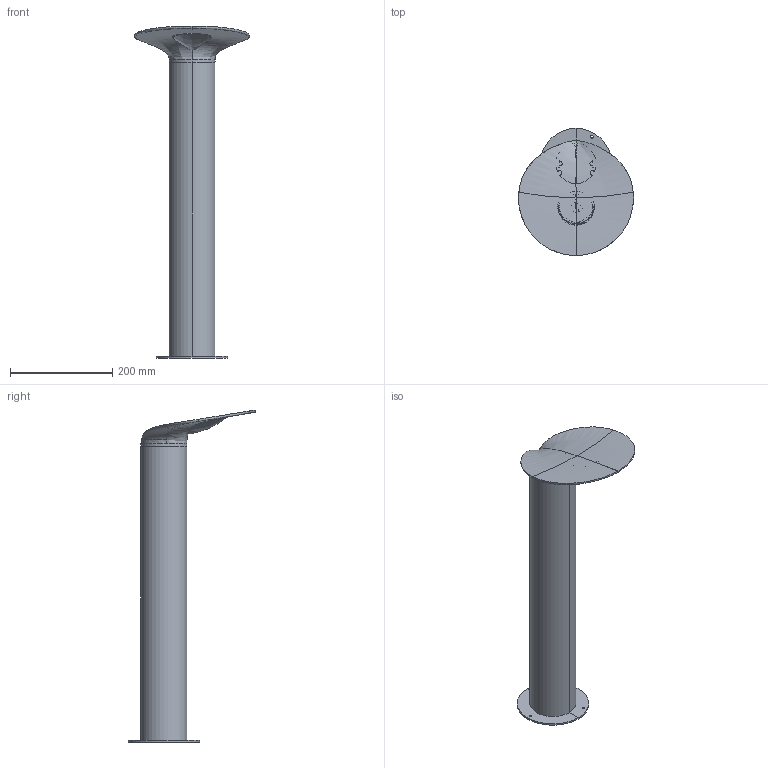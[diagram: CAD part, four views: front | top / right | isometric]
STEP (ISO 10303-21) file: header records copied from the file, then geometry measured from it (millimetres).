
FILE_DESCRIPTION(/* description */ (''),/* implementation_level */ '2;1');
FILE_NAME(/* name */ 'C:\Users\FrancoSartori\Documents\FARO\01_En Proceso\0_LOTUS\03_Publicación\71225.stp',/* time_stamp */ '2021-06-03T09:50:05+02:00',/* author */ ('FrancoSartori'),/* organization */ (''),/* preprocessor_version */ 'ST-DEVELOPER v18.1',/* originating_system */ 'AutoCAD Mechanical',/* authorisation */ '');
FILE_SCHEMA (('AUTOMOTIVE_DESIGN { 1 0 10303 214 3 1 1 }'));
Length unit declared in the file: millimetre
Products named in the file (4): Product; 71225_ - LAMP-468748-Export; 71225_ - lotusTop_dwg-468745-Export; 71225_ - Lotus_d_dwg-468744-Export
Assembly tree (3 placements, depth 3):
  Product
    71225_ - LAMP-468748-Export
      71225_ - lotusTop_dwg-468745-Export
      71225_ - Lotus_d_dwg-468744-Export
Bounding box: 225.39 x 250.13 x 649.98 mm (x, y, z)
Volume: 3620867.6 mm3; surface area: 322311.8 mm2
Topology: 1 solids, 5 shells, 199 faces, 610 edges, 422 vertices
Faces by surface type: bspline 69, plane 62, cylinder 44, cone 13, torus 11
Entity records: 24234 total; most frequent: CARTESIAN_POINT 19544, ORIENTED_EDGE 1170, EDGE_CURVE 605, DIRECTION 603, VERTEX_POINT 422, B_SPLINE_CURVE_WITH_KNOTS 368, AXIS2_PLACEMENT_3D 239, EDGE_LOOP 222
